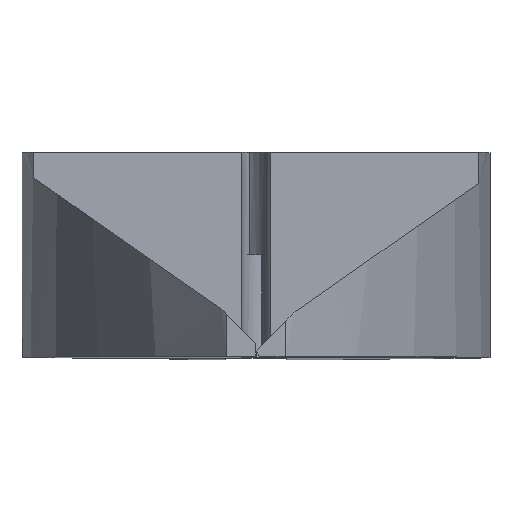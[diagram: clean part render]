
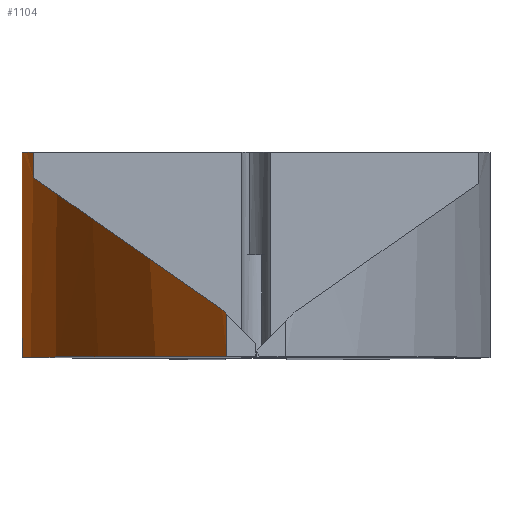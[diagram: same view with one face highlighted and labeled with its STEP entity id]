
A CAD part, top view. The second image highlights one B-rep face of the part: STEP entity #1104.
In plain terms, the highlighted cylindrical face has radius 25 mm (diameter 50 mm), a partial arc.
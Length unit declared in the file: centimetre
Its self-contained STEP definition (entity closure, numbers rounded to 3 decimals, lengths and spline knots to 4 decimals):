
#25=ELLIPSE('',#1168,3.5355,2.5);
#26=ELLIPSE('',#1182,3.0519,2.5);
#54=CYLINDRICAL_SURFACE('',#1191,2.5);
#95=FACE_OUTER_BOUND('',#162,.T.);
#162=EDGE_LOOP('',(#850,#851,#852,#853,#854,#855,#856));
#246=LINE('',#1898,#351);
#248=LINE('',#1902,#353);
#252=LINE('',#1914,#357);
#351=VECTOR('',#1382,0.0865);
#353=VECTOR('',#1388,0.145);
#357=VECTOR('',#1404,0.7);
#421=CIRCLE('',#1161,2.5);
#426=CIRCLE('',#1176,2.5);
#477=VERTEX_POINT('',#1744);
#478=VERTEX_POINT('',#1746);
#483=VERTEX_POINT('',#1847);
#484=VERTEX_POINT('',#1848);
#493=VERTEX_POINT('',#1875);
#494=VERTEX_POINT('',#1877);
#498=VERTEX_POINT('',#1893);
#587=EDGE_CURVE('',#477,#478,#421,.T.);
#597=EDGE_CURVE('',#483,#484,#25,.T.);
#611=EDGE_CURVE('',#493,#494,#426,.T.);
#620=EDGE_CURVE('',#484,#498,#26,.T.);
#622=EDGE_CURVE('',#498,#494,#246,.T.);
#624=EDGE_CURVE('',#483,#477,#248,.T.);
#630=EDGE_CURVE('',#493,#478,#252,.T.);
#850=ORIENTED_EDGE('',*,*,#597,.T.);
#851=ORIENTED_EDGE('',*,*,#620,.T.);
#852=ORIENTED_EDGE('',*,*,#622,.T.);
#853=ORIENTED_EDGE('',*,*,#611,.F.);
#854=ORIENTED_EDGE('',*,*,#630,.T.);
#855=ORIENTED_EDGE('',*,*,#587,.F.);
#856=ORIENTED_EDGE('',*,*,#624,.F.);
#1104=ADVANCED_FACE('',(#95),#54,.T.);
#1161=AXIS2_PLACEMENT_3D('',#1747,#1312,#1313);
#1168=AXIS2_PLACEMENT_3D('',#1849,#1331,#1332);
#1176=AXIS2_PLACEMENT_3D('',#1878,#1358,#1359);
#1182=AXIS2_PLACEMENT_3D('',#1895,#1377,#1378);
#1191=AXIS2_PLACEMENT_3D('',#1913,#1402,#1403);
#1312=DIRECTION('center_axis',(0.,-1.,0.));
#1313=DIRECTION('ref_axis',(1.,0.,0.));
#1331=DIRECTION('center_axis',(-0.707,-0.707,0.));
#1332=DIRECTION('ref_axis',(0.707,-0.707,0.));
#1358=DIRECTION('center_axis',(0.,1.,0.));
#1359=DIRECTION('ref_axis',(1.,0.,0.));
#1377=DIRECTION('center_axis',(-0.574,-0.819,0.));
#1378=DIRECTION('ref_axis',(0.819,-0.574,0.));
#1382=DIRECTION('',(0.,1.,0.));
#1388=DIRECTION('',(0.,-1.,0.));
#1402=DIRECTION('center_axis',(0.,1.,0.));
#1403=DIRECTION('ref_axis',(1.,0.,0.));
#1404=DIRECTION('',(0.,-1.,0.));
#1744=CARTESIAN_POINT('',(-0.1,-0.35,3.2));
#1746=CARTESIAN_POINT('',(-0.8,-0.35,1.4651));
#1747=CARTESIAN_POINT('Origin',(1.7,-0.35,1.4651));
#1847=CARTESIAN_POINT('',(-0.1,-0.205,3.2));
#1848=CARTESIAN_POINT('',(-0.1167,-0.1883,3.1825));
#1849=CARTESIAN_POINT('Origin',(1.7,-2.005,1.4651));
#1875=CARTESIAN_POINT('',(-0.8,0.35,1.4651));
#1877=CARTESIAN_POINT('',(-0.7619,0.35,1.9));
#1878=CARTESIAN_POINT('Origin',(1.7,0.35,1.4651));
#1893=CARTESIAN_POINT('',(-0.7619,0.2635,1.9));
#1895=CARTESIAN_POINT('Origin',(1.7,-1.4604,1.4651));
#1898=CARTESIAN_POINT('',(-0.7619,0.35,1.9));
#1902=CARTESIAN_POINT('',(-0.1,0.35,3.2));
#1913=CARTESIAN_POINT('Origin',(1.7,0.35,1.4651));
#1914=CARTESIAN_POINT('',(-0.8,0.35,1.4651));
